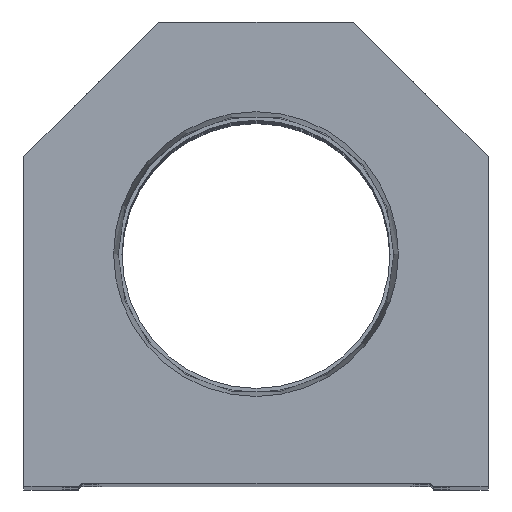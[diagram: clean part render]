
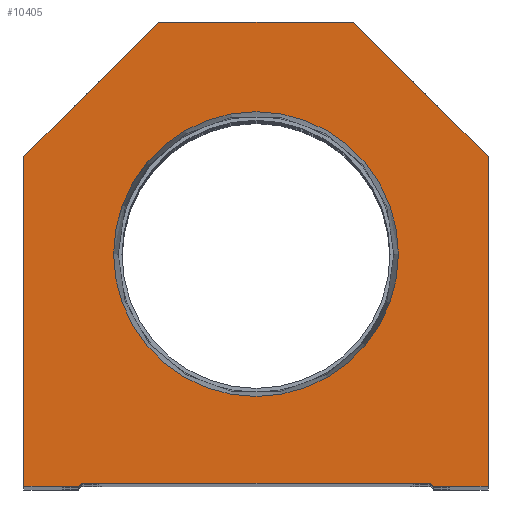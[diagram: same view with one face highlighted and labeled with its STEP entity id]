
A CAD part, top view. The second image highlights one B-rep face of the part: STEP entity #10405.
In plain terms, the highlighted planar face has unit normal (0, 0, 1).
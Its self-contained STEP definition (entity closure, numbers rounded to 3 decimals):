
#39 = EDGE_CURVE ( 'NONE', #2414, #6523, #19313, .T. ) ;
#221 = CIRCLE ( 'NONE', #5935, 23.374 ) ;
#314 = EDGE_CURVE ( 'NONE', #22932, #20284, #912, .T. ) ;
#666 = CARTESIAN_POINT ( 'NONE',  ( 38.1, 54.1, 0. ) ) ;
#677 = CARTESIAN_POINT ( 'NONE',  ( -28.6, 0.5, 0. ) ) ;
#912 = LINE ( 'NONE', #17145, #6194 ) ;
#987 = EDGE_LOOP ( 'NONE', ( #4664, #15534, #3503, #14451, #7496, #6008, #14212, #14136, #5648, #17863 ) ) ;
#1136 = CARTESIAN_POINT ( 'NONE',  ( -29.1, 0., 0. ) ) ;
#1205 = ORIENTED_EDGE ( 'NONE', *, *, #22294, .F. ) ;
#1230 = EDGE_LOOP ( 'NONE', ( #16550, #1205 ) ) ;
#2135 = DIRECTION ( 'NONE',  ( 0.707, -0.707, 0. ) ) ;
#2151 = VECTOR ( 'NONE', #16449, 1000. ) ;
#2414 = VERTEX_POINT ( 'NONE', #20875 ) ;
#2499 = DIRECTION ( 'NONE',  ( 0., -1., 0. ) ) ;
#2877 = CIRCLE ( 'NONE', #5159, 23.374 ) ;
#3297 = CARTESIAN_POINT ( 'NONE',  ( -16., 76.2, 0. ) ) ;
#3427 = VECTOR ( 'NONE', #21623, 1000. ) ;
#3453 = VECTOR ( 'NONE', #18837, 1000. ) ;
#3503 = ORIENTED_EDGE ( 'NONE', *, *, #314, .T. ) ;
#3516 = DIRECTION ( 'NONE',  ( 1., 0., 0. ) ) ;
#3612 = VERTEX_POINT ( 'NONE', #3297 ) ;
#3682 = LINE ( 'NONE', #5697, #18772 ) ;
#3998 = DIRECTION ( 'NONE',  ( 0., 0., 1. ) ) ;
#4403 = CARTESIAN_POINT ( 'NONE',  ( -28.6, 0., 0. ) ) ;
#4664 = ORIENTED_EDGE ( 'NONE', *, *, #20097, .T. ) ;
#5027 = VERTEX_POINT ( 'NONE', #13651 ) ;
#5052 = EDGE_CURVE ( 'NONE', #22027, #3612, #15554, .T. ) ;
#5159 = AXIS2_PLACEMENT_3D ( 'NONE', #13187, #14867, #3516 ) ;
#5248 = CARTESIAN_POINT ( 'NONE',  ( 16., 76.2, 0. ) ) ;
#5648 = ORIENTED_EDGE ( 'NONE', *, *, #8135, .T. ) ;
#5697 = CARTESIAN_POINT ( 'NONE',  ( -38.1, 54.1, 0. ) ) ;
#5875 = VERTEX_POINT ( 'NONE', #12933 ) ;
#5935 = AXIS2_PLACEMENT_3D ( 'NONE', #7467, #3998, #22009 ) ;
#5966 = DIRECTION ( 'NONE',  ( 1., 0., 0. ) ) ;
#6008 = ORIENTED_EDGE ( 'NONE', *, *, #6262, .T. ) ;
#6194 = VECTOR ( 'NONE', #15487, 1000. ) ;
#6262 = EDGE_CURVE ( 'NONE', #5027, #5875, #20621, .T. ) ;
#6317 = DIRECTION ( 'NONE',  ( 1., 0., 0. ) ) ;
#6398 = CARTESIAN_POINT ( 'NONE',  ( 23.374, 38.1, 0. ) ) ;
#6523 = VERTEX_POINT ( 'NONE', #22263 ) ;
#6948 = FACE_OUTER_BOUND ( 'NONE', #987, .T. ) ;
#7467 = CARTESIAN_POINT ( 'NONE',  ( 0., 38.1, 0. ) ) ;
#7496 = ORIENTED_EDGE ( 'NONE', *, *, #15317, .T. ) ;
#7862 = DIRECTION ( 'NONE',  ( -0.707, -0.707, 0. ) ) ;
#8135 = EDGE_CURVE ( 'NONE', #3612, #2414, #3682, .T. ) ;
#9283 = VECTOR ( 'NONE', #2135, 1000. ) ;
#9561 = DIRECTION ( 'NONE',  ( 0., 0., 1. ) ) ;
#10086 = VECTOR ( 'NONE', #6317, 1000. ) ;
#10405 = ADVANCED_FACE ( 'NONE', ( #23289, #6948 ), #21525, .T. ) ;
#10734 = CARTESIAN_POINT ( 'NONE',  ( -14.55, 14.55, 0. ) ) ;
#11208 = CARTESIAN_POINT ( 'NONE',  ( 14.55, 14.55, 0. ) ) ;
#11419 = VECTOR ( 'NONE', #19044, 1000. ) ;
#12518 = VERTEX_POINT ( 'NONE', #14264 ) ;
#12933 = CARTESIAN_POINT ( 'NONE',  ( 38.1, 54.1, 0. ) ) ;
#13073 = EDGE_CURVE ( 'NONE', #16001, #22932, #13191, .T. ) ;
#13187 = CARTESIAN_POINT ( 'NONE',  ( 0., 38.1, 0. ) ) ;
#13191 = LINE ( 'NONE', #10734, #2151 ) ;
#13272 = CARTESIAN_POINT ( 'NONE',  ( 28.6, 0., 0. ) ) ;
#13651 = CARTESIAN_POINT ( 'NONE',  ( 38.1, 0., 0. ) ) ;
#13692 = VECTOR ( 'NONE', #13748, 1000. ) ;
#13748 = DIRECTION ( 'NONE',  ( 1., 0., 0. ) ) ;
#14136 = ORIENTED_EDGE ( 'NONE', *, *, #5052, .T. ) ;
#14190 = CARTESIAN_POINT ( 'NONE',  ( -23.374, 38.1, 0. ) ) ;
#14202 = VECTOR ( 'NONE', #2499, 1000. ) ;
#14212 = ORIENTED_EDGE ( 'NONE', *, *, #15929, .T. ) ;
#14264 = CARTESIAN_POINT ( 'NONE',  ( 29.1, 0., 0. ) ) ;
#14451 = ORIENTED_EDGE ( 'NONE', *, *, #17824, .T. ) ;
#14867 = DIRECTION ( 'NONE',  ( 0., 0., 1. ) ) ;
#15120 = CARTESIAN_POINT ( 'NONE',  ( 16., 76.2, 0. ) ) ;
#15271 = CARTESIAN_POINT ( 'NONE',  ( 38.1, 0., 0. ) ) ;
#15317 = EDGE_CURVE ( 'NONE', #12518, #5027, #20654, .T. ) ;
#15401 = CARTESIAN_POINT ( 'NONE',  ( -38.1, 0., 0. ) ) ;
#15416 = LINE ( 'NONE', #4403, #10086 ) ;
#15487 = DIRECTION ( 'NONE',  ( 1., 0., 0. ) ) ;
#15534 = ORIENTED_EDGE ( 'NONE', *, *, #13073, .T. ) ;
#15554 = LINE ( 'NONE', #5248, #3427 ) ;
#15763 = CARTESIAN_POINT ( 'NONE',  ( 28.6, 0.5, 0. ) ) ;
#15929 = EDGE_CURVE ( 'NONE', #5875, #22027, #22626, .T. ) ;
#16001 = VERTEX_POINT ( 'NONE', #1136 ) ;
#16449 = DIRECTION ( 'NONE',  ( 0.707, 0.707, 0. ) ) ;
#16550 = ORIENTED_EDGE ( 'NONE', *, *, #22249, .F. ) ;
#17145 = CARTESIAN_POINT ( 'NONE',  ( -28.6, 0.5, 0. ) ) ;
#17824 = EDGE_CURVE ( 'NONE', #20284, #12518, #18250, .T. ) ;
#17863 = ORIENTED_EDGE ( 'NONE', *, *, #39, .T. ) ;
#18200 = AXIS2_PLACEMENT_3D ( 'NONE', #19721, #9561, #5966 ) ;
#18250 = LINE ( 'NONE', #11208, #9283 ) ;
#18772 = VECTOR ( 'NONE', #7862, 1000. ) ;
#18837 = DIRECTION ( 'NONE',  ( 0., 1., 0. ) ) ;
#19044 = DIRECTION ( 'NONE',  ( -0.707, 0.707, 0. ) ) ;
#19159 = VERTEX_POINT ( 'NONE', #14190 ) ;
#19313 = LINE ( 'NONE', #15401, #14202 ) ;
#19721 = CARTESIAN_POINT ( 'NONE',  ( 0., 0., 0. ) ) ;
#20097 = EDGE_CURVE ( 'NONE', #6523, #16001, #15416, .T. ) ;
#20284 = VERTEX_POINT ( 'NONE', #15763 ) ;
#20526 = VERTEX_POINT ( 'NONE', #6398 ) ;
#20621 = LINE ( 'NONE', #15271, #3453 ) ;
#20654 = LINE ( 'NONE', #13272, #13692 ) ;
#20875 = CARTESIAN_POINT ( 'NONE',  ( -38.1, 54.1, 0. ) ) ;
#21525 = PLANE ( 'NONE',  #18200 ) ;
#21623 = DIRECTION ( 'NONE',  ( -1., 0., 0. ) ) ;
#22009 = DIRECTION ( 'NONE',  ( 1., 0., 0. ) ) ;
#22027 = VERTEX_POINT ( 'NONE', #15120 ) ;
#22249 = EDGE_CURVE ( 'NONE', #20526, #19159, #2877, .T. ) ;
#22263 = CARTESIAN_POINT ( 'NONE',  ( -38.1, 0., 0. ) ) ;
#22294 = EDGE_CURVE ( 'NONE', #19159, #20526, #221, .T. ) ;
#22626 = LINE ( 'NONE', #666, #11419 ) ;
#22932 = VERTEX_POINT ( 'NONE', #677 ) ;
#23289 = FACE_BOUND ( 'NONE', #1230, .T. ) ;
